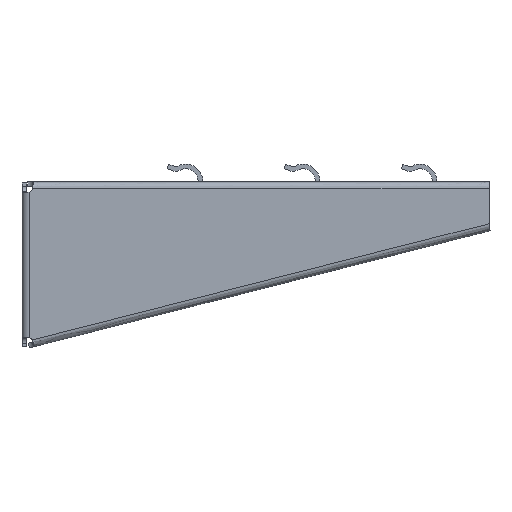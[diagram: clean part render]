
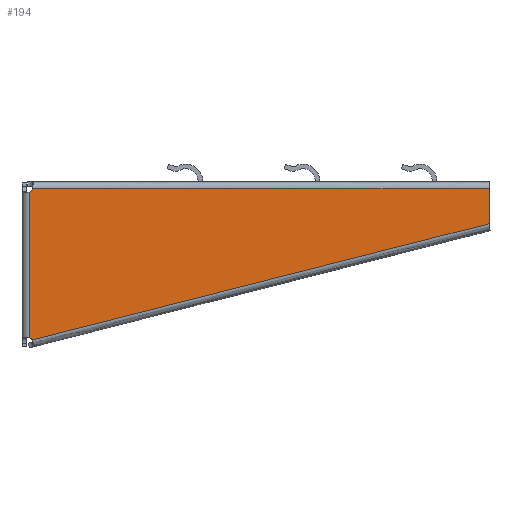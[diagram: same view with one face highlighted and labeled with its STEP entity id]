
A CAD part, left-side view. The second image highlights one B-rep face of the part: STEP entity #194.
In plain terms, the highlighted planar face has unit normal (-1, 0, 0).
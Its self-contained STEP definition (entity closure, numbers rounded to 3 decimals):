
#194=ADVANCED_FACE('',(#305),#1836,.T.);
#305=FACE_OUTER_BOUND('',#424,.T.);
#424=EDGE_LOOP('',(#954,#955,#956,#957,#958,#959,#960,#961,#962,#963,#964,
#965,#966,#967));
#954=ORIENTED_EDGE('',*,*,#1299,.T.);
#955=ORIENTED_EDGE('',*,*,#1229,.T.);
#956=ORIENTED_EDGE('',*,*,#1226,.T.);
#957=ORIENTED_EDGE('',*,*,#1223,.T.);
#958=ORIENTED_EDGE('',*,*,#1220,.T.);
#959=ORIENTED_EDGE('',*,*,#1294,.F.);
#960=ORIENTED_EDGE('',*,*,#1293,.T.);
#961=ORIENTED_EDGE('',*,*,#1290,.F.);
#962=ORIENTED_EDGE('',*,*,#1300,.T.);
#963=ORIENTED_EDGE('',*,*,#1216,.T.);
#964=ORIENTED_EDGE('',*,*,#1213,.T.);
#965=ORIENTED_EDGE('',*,*,#1210,.T.);
#966=ORIENTED_EDGE('',*,*,#1207,.T.);
#967=ORIENTED_EDGE('',*,*,#1292,.F.);
#1207=EDGE_CURVE('',#1731,#1729,#1419,.T.);
#1210=EDGE_CURVE('',#1733,#1731,#1422,.T.);
#1213=EDGE_CURVE('',#1735,#1733,#1425,.T.);
#1216=EDGE_CURVE('',#1737,#1735,#1428,.T.);
#1220=EDGE_CURVE('',#1741,#1739,#1432,.T.);
#1223=EDGE_CURVE('',#1743,#1741,#1435,.T.);
#1226=EDGE_CURVE('',#1745,#1743,#1438,.T.);
#1229=EDGE_CURVE('',#1747,#1745,#1441,.T.);
#1290=EDGE_CURVE('',#1727,#1725,#1477,.T.);
#1292=EDGE_CURVE('',#1751,#1729,#1593,.T.);
#1293=EDGE_CURVE('',#1749,#1725,#1594,.T.);
#1294=EDGE_CURVE('',#1749,#1739,#1479,.T.);
#1299=EDGE_CURVE('',#1751,#1747,#1484,.T.);
#1300=EDGE_CURVE('',#1727,#1737,#1485,.T.);
#1419=(
BOUNDED_CURVE()
B_SPLINE_CURVE(2,(#3532,#3533,#3534),.UNSPECIFIED.,.F.,.F.)
B_SPLINE_CURVE_WITH_KNOTS((3,3),(-756.826,-756.247),
 .UNSPECIFIED.)
CURVE()
GEOMETRIC_REPRESENTATION_ITEM()
RATIONAL_B_SPLINE_CURVE((1.,0.993,1.))
REPRESENTATION_ITEM('')
);
#1422=(
BOUNDED_CURVE()
B_SPLINE_CURVE(2,(#3540,#3541,#3542),.UNSPECIFIED.,.F.,.F.)
B_SPLINE_CURVE_WITH_KNOTS((3,3),(-756.834,-756.826),
 .UNSPECIFIED.)
CURVE()
GEOMETRIC_REPRESENTATION_ITEM()
RATIONAL_B_SPLINE_CURVE((1.,1.,1.))
REPRESENTATION_ITEM('')
);
#1425=(
BOUNDED_CURVE()
B_SPLINE_CURVE(2,(#3548,#3549,#3550),.UNSPECIFIED.,.F.,.F.)
B_SPLINE_CURVE_WITH_KNOTS((3,3),(-758.015,-756.834),
 .UNSPECIFIED.)
CURVE()
GEOMETRIC_REPRESENTATION_ITEM()
RATIONAL_B_SPLINE_CURVE((1.,0.972,1.))
REPRESENTATION_ITEM('')
);
#1428=(
BOUNDED_CURVE()
B_SPLINE_CURVE(2,(#3556,#3557,#3558),.UNSPECIFIED.,.F.,.F.)
B_SPLINE_CURVE_WITH_KNOTS((3,3),(-758.018,-758.015),
 .UNSPECIFIED.)
CURVE()
GEOMETRIC_REPRESENTATION_ITEM()
RATIONAL_B_SPLINE_CURVE((1.,1.,1.))
REPRESENTATION_ITEM('')
);
#1432=(
BOUNDED_CURVE()
B_SPLINE_CURVE(2,(#3566,#3567,#3568),.UNSPECIFIED.,.F.,.F.)
B_SPLINE_CURVE_WITH_KNOTS((3,3),(-626.04,-625.461),
 .UNSPECIFIED.)
CURVE()
GEOMETRIC_REPRESENTATION_ITEM()
RATIONAL_B_SPLINE_CURVE((1.,0.993,1.))
REPRESENTATION_ITEM('')
);
#1435=(
BOUNDED_CURVE()
B_SPLINE_CURVE(2,(#3574,#3575,#3576),.UNSPECIFIED.,.F.,.F.)
B_SPLINE_CURVE_WITH_KNOTS((3,3),(-626.047,-626.04),
 .UNSPECIFIED.)
CURVE()
GEOMETRIC_REPRESENTATION_ITEM()
RATIONAL_B_SPLINE_CURVE((1.,1.,1.))
REPRESENTATION_ITEM('')
);
#1438=(
BOUNDED_CURVE()
B_SPLINE_CURVE(2,(#3582,#3583,#3584),.UNSPECIFIED.,.F.,.F.)
B_SPLINE_CURVE_WITH_KNOTS((3,3),(-626.606,-626.047),
 .UNSPECIFIED.)
CURVE()
GEOMETRIC_REPRESENTATION_ITEM()
RATIONAL_B_SPLINE_CURVE((1.,0.994,1.))
REPRESENTATION_ITEM('')
);
#1441=(
BOUNDED_CURVE()
B_SPLINE_CURVE(2,(#3590,#3591,#3592),.UNSPECIFIED.,.F.,.F.)
B_SPLINE_CURVE_WITH_KNOTS((3,3),(-626.609,-626.606),
 .UNSPECIFIED.)
CURVE()
GEOMETRIC_REPRESENTATION_ITEM()
RATIONAL_B_SPLINE_CURVE((1.,1.,1.))
REPRESENTATION_ITEM('')
);
#1477=(
BOUNDED_CURVE()
B_SPLINE_CURVE(1,(#3841,#3842),.UNSPECIFIED.,.F.,.F.)
B_SPLINE_CURVE_WITH_KNOTS((2,2),(0.,194.93),.UNSPECIFIED.)
CURVE()
GEOMETRIC_REPRESENTATION_ITEM()
RATIONAL_B_SPLINE_CURVE((1.,1.))
REPRESENTATION_ITEM('')
);
#1479=(
BOUNDED_CURVE()
B_SPLINE_CURVE(1,(#3849,#3850),.UNSPECIFIED.,.F.,.F.)
B_SPLINE_CURVE_WITH_KNOTS((2,2),(-201.402,0.),.UNSPECIFIED.)
CURVE()
GEOMETRIC_REPRESENTATION_ITEM()
RATIONAL_B_SPLINE_CURVE((1.,1.))
REPRESENTATION_ITEM('')
);
#1484=(
BOUNDED_CURVE()
B_SPLINE_CURVE(2,(#3869,#3870,#3871),.UNSPECIFIED.,.F.,.F.)
B_SPLINE_CURVE_WITH_KNOTS((3,3),(-627.196,-626.609),
 .UNSPECIFIED.)
CURVE()
GEOMETRIC_REPRESENTATION_ITEM()
RATIONAL_B_SPLINE_CURVE((1.,0.994,1.))
REPRESENTATION_ITEM('')
);
#1485=(
BOUNDED_CURVE()
B_SPLINE_CURVE(2,(#3872,#3873,#3874),.UNSPECIFIED.,.F.,.F.)
B_SPLINE_CURVE_WITH_KNOTS((3,3),(-758.604,-758.018),
 .UNSPECIFIED.)
CURVE()
GEOMETRIC_REPRESENTATION_ITEM()
RATIONAL_B_SPLINE_CURVE((1.,0.993,1.))
REPRESENTATION_ITEM('')
);
#1593=B_SPLINE_CURVE_WITH_KNOTS('',1,(#3845,#3846),.UNSPECIFIED.,.F.,.F.,
(2,2),(-80.741,-1.565),.UNSPECIFIED.);
#1594=B_SPLINE_CURVE_WITH_KNOTS('',1,(#3847,#3848),.UNSPECIFIED.,.F.,.F.,
(2,2),(-1024.586,-1009.631),.UNSPECIFIED.);
#1725=VERTEX_POINT('',#3084);
#1727=VERTEX_POINT('',#3086);
#1729=VERTEX_POINT('',#3088);
#1731=VERTEX_POINT('',#3090);
#1733=VERTEX_POINT('',#3092);
#1735=VERTEX_POINT('',#3094);
#1737=VERTEX_POINT('',#3096);
#1739=VERTEX_POINT('',#3098);
#1741=VERTEX_POINT('',#3100);
#1743=VERTEX_POINT('',#3102);
#1745=VERTEX_POINT('',#3104);
#1747=VERTEX_POINT('',#3106);
#1749=VERTEX_POINT('',#3108);
#1751=VERTEX_POINT('',#3110);
#1836=PLANE('',#1979);
#1979=AXIS2_PLACEMENT_3D('',#2996,#2038,$);
#2038=DIRECTION('',(-1.,0.,0.));
#2996=CARTESIAN_POINT('',(-15.265,27.346,26.621));
#3084=CARTESIAN_POINT('',(-15.265,-198.498,-1.5));
#3086=CARTESIAN_POINT('',(-15.265,-3.568,-1.5));
#3088=CARTESIAN_POINT('',(-15.265,-1.979,-3.089));
#3090=CARTESIAN_POINT('',(-15.265,-2.498,-2.848));
#3092=CARTESIAN_POINT('',(-15.265,-2.505,-2.844));
#3094=CARTESIAN_POINT('',(-15.265,-3.327,-2.019));
#3096=CARTESIAN_POINT('',(-15.265,-3.329,-2.017));
#3098=CARTESIAN_POINT('',(-15.265,-3.301,-66.066));
#3100=CARTESIAN_POINT('',(-15.265,-2.941,-65.622));
#3102=CARTESIAN_POINT('',(-15.265,-2.936,-65.617));
#3104=CARTESIAN_POINT('',(-15.265,-2.498,-65.278));
#3106=CARTESIAN_POINT('',(-15.265,-2.495,-65.276));
#3108=CARTESIAN_POINT('',(-15.265,-198.498,-16.455));
#3110=CARTESIAN_POINT('',(-15.265,-1.979,-65.038));
#3532=CARTESIAN_POINT('',(-15.265,-2.498,-2.848));
#3533=CARTESIAN_POINT('',(-15.265,-2.252,-2.998));
#3534=CARTESIAN_POINT('',(-15.265,-1.979,-3.089));
#3540=CARTESIAN_POINT('',(-15.265,-2.505,-2.844));
#3541=CARTESIAN_POINT('',(-15.265,-2.501,-2.846));
#3542=CARTESIAN_POINT('',(-15.265,-2.498,-2.848));
#3548=CARTESIAN_POINT('',(-15.265,-3.327,-2.019));
#3549=CARTESIAN_POINT('',(-15.265,-3.015,-2.53));
#3550=CARTESIAN_POINT('',(-15.265,-2.505,-2.844));
#3556=CARTESIAN_POINT('',(-15.265,-3.329,-2.017));
#3557=CARTESIAN_POINT('',(-15.265,-3.328,-2.018));
#3558=CARTESIAN_POINT('',(-15.265,-3.327,-2.019));
#3566=CARTESIAN_POINT('',(-15.265,-2.941,-65.622));
#3567=CARTESIAN_POINT('',(-15.265,-3.147,-65.823));
#3568=CARTESIAN_POINT('',(-15.265,-3.301,-66.066));
#3574=CARTESIAN_POINT('',(-15.265,-2.936,-65.617));
#3575=CARTESIAN_POINT('',(-15.265,-2.938,-65.62));
#3576=CARTESIAN_POINT('',(-15.265,-2.941,-65.622));
#3582=CARTESIAN_POINT('',(-15.265,-2.498,-65.278));
#3583=CARTESIAN_POINT('',(-15.265,-2.736,-65.423));
#3584=CARTESIAN_POINT('',(-15.265,-2.936,-65.617));
#3590=CARTESIAN_POINT('',(-15.265,-2.495,-65.276));
#3591=CARTESIAN_POINT('',(-15.265,-2.496,-65.277));
#3592=CARTESIAN_POINT('',(-15.265,-2.498,-65.278));
#3841=CARTESIAN_POINT('',(-15.265,-3.568,-1.5));
#3842=CARTESIAN_POINT('',(-15.265,-198.498,-1.5));
#3845=CARTESIAN_POINT('',(-15.265,-1.979,-65.038));
#3846=CARTESIAN_POINT('',(-15.265,-1.979,-3.089));
#3847=CARTESIAN_POINT('',(-15.265,-198.498,-16.455));
#3848=CARTESIAN_POINT('',(-15.265,-198.498,-1.5));
#3849=CARTESIAN_POINT('',(-15.265,-198.498,-16.455));
#3850=CARTESIAN_POINT('',(-15.265,-3.301,-66.066));
#3869=CARTESIAN_POINT('',(-15.265,-1.979,-65.038));
#3870=CARTESIAN_POINT('',(-15.265,-2.251,-65.127));
#3871=CARTESIAN_POINT('',(-15.265,-2.495,-65.276));
#3872=CARTESIAN_POINT('',(-15.265,-3.568,-1.5));
#3873=CARTESIAN_POINT('',(-15.265,-3.478,-1.772));
#3874=CARTESIAN_POINT('',(-15.265,-3.329,-2.017));
